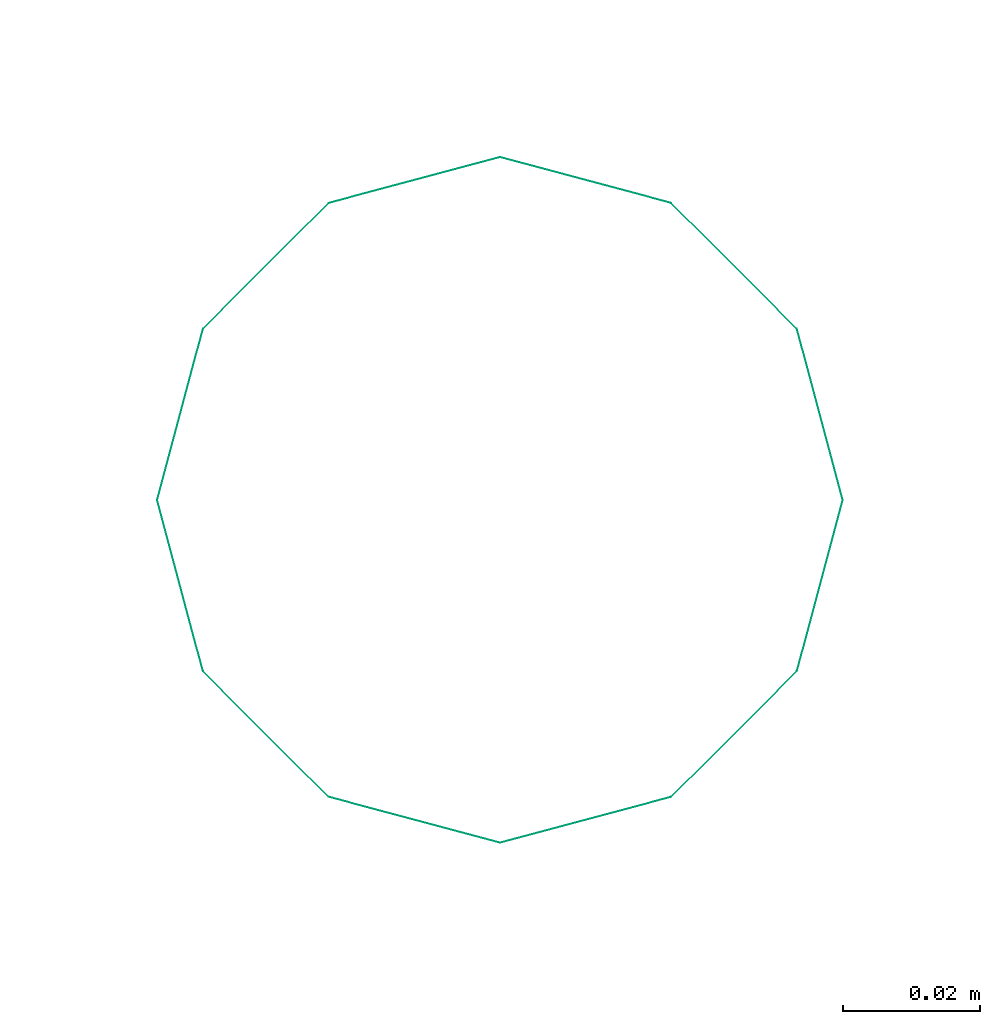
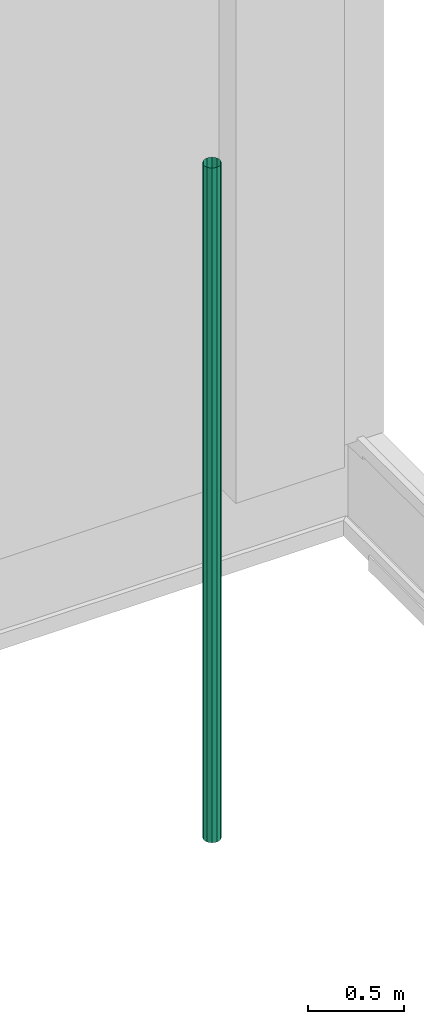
# One storey, part 87 of 94: 1 distribution flow element.
"""IFC2X3 building model written with IfcOpenShell, lengths in millimetres."""

import ifcopenshell
import ifcopenshell.guid

model = None  # the IFC model being written
_history = None  # IfcOwnerHistory: only IFC2X3 demands one
_inside = {}  # id of a spatial element -> (the spatial element, [elements in it])
_under = {}  # id of a project, library or spatial element -> (it, [spatial elements below it])
_declared = {}  # id of a project -> (the project, [libraries it declares])
_typed = {}  # id of a type object -> (the type object, [elements of that type])
_made_of = {}  # id of a material, layer set ... -> (it, [elements and type objects made of it])


def new_model(schema):
    """Start an empty IFC model of exactly this schema.

    Asked for "IFC4X3", IfcOpenShell would pick the latest addendum, in which some entities
    have other attributes; the version numbers below select the first issue.
    IFC2X3 requires an IfcOwnerHistory on every rooted entity: one is made here for all.
    """
    global model, _history
    if schema == "IFC4X3":
        model = ifcopenshell.file(schema_version=(4, 3, 0, 0))
    else:
        model = ifcopenshell.file(schema=schema)
    _inside.clear()
    _under.clear()
    _declared.clear()
    _typed.clear()
    _made_of.clear()
    _history = None
    if model.schema == "IFC2X3":
        org = make("IfcOrganization", Name="unknown")
        user = make(
            "IfcPersonAndOrganization",
            ThePerson=make("IfcPerson", FamilyName="unknown"),
            TheOrganization=org,
        )
        app = make(
            "IfcApplication",
            ApplicationDeveloper=org,
            Version="unknown",
            ApplicationFullName="unknown",
            ApplicationIdentifier="unknown",
        )
        _history = make(
            "IfcOwnerHistory",
            OwningUser=user,
            OwningApplication=app,
            ChangeAction="ADDED",
            CreationDate=0,
        )
    return model


def make(cls, **values):
    """One entity of the class cls with the attributes given. An attribute that is None is left unset."""
    return model.create_entity(
        cls, **{name: value for name, value in values.items() if value is not None}
    )


def entity(cls, *values):
    """Any entity or typed value of the class cls, its attributes in the order of the schema. None: left unset."""
    e = model.create_entity(cls)
    for i, value in enumerate(values):
        if value is not None:
            e[i] = value
    return e


def rooted(cls, **values):
    """An entity with a GlobalId (a new one), such as an element, a storey or a relation."""
    return make(cls, GlobalId=ifcopenshell.guid.new(), OwnerHistory=_history, **values)


def si_unit(unit_type, name, prefix=None):
    """IfcSIUnit, for example si_unit("LENGTHUNIT", "METRE", prefix="MILLI")."""
    return make("IfcSIUnit", UnitType=unit_type, Prefix=prefix, Name=name)


def converted_unit(unit_type, name, factor, base, dimensions=None, offset=None):
    """IfcConversionBasedUnit, such as the inch: factor (a typed value) times the base unit."""
    return make(
        "IfcConversionBasedUnit"
        if offset is None
        else "IfcConversionBasedUnitWithOffset",
        ConversionOffset=offset,
        Dimensions=None
        if dimensions is None
        else entity("IfcDimensionalExponents", *dimensions),
        UnitType=unit_type,
        Name=name,
        ConversionFactor=make(
            "IfcMeasureWithUnit", ValueComponent=factor, UnitComponent=base
        ),
    )


def derived_unit(unit_type, elements):
    """IfcDerivedUnit: a product of units, each with its exponent."""
    return make(
        "IfcDerivedUnit",
        Elements=[
            make("IfcDerivedUnitElement", Unit=unit, Exponent=power)
            for unit, power in elements
        ],
        UnitType=unit_type,
    )


def money_unit(currency):
    """IfcMonetaryUnit."""
    return make("IfcMonetaryUnit", Currency=currency)


def assignment(units):
    """IfcUnitAssignment: the units of a project."""
    return None if units is None else make("IfcUnitAssignment", Units=units)


def point(xyz):
    """IfcCartesianPoint."""
    return None if xyz is None else make("IfcCartesianPoint", Coordinates=xyz)


def direction(xyz):
    """IfcDirection."""
    return None if xyz is None else make("IfcDirection", DirectionRatios=xyz)


def frame(location, z_axis=None, x_axis=None):
    """IfcAxis2Placement3D, a coordinate frame: its origin and axes. An axis left out is left unset."""
    return make(
        "IfcAxis2Placement3D",
        Location=point(location),
        Axis=direction(z_axis),
        RefDirection=direction(x_axis),
    )


def origin_with_axes():
    """The frame at (0, 0, 0) with the z axis (0, 0, 1) and the x axis (1, 0, 0) written out."""
    return frame((0.0, 0.0, 0.0), z_axis=(0.0, 0.0, 1.0), x_axis=(1.0, 0.0, 0.0))


def place(relative_to, where):
    """IfcLocalPlacement: puts the frame where relative to a parent placement (None: the world)."""
    return make(
        "IfcLocalPlacement", PlacementRelTo=relative_to, RelativePlacement=where
    )


def context(
    kind, dimensions, precision=None, world=None, true_north=None, identifier=None
):
    """IfcGeometricRepresentationContext, for example the 3D "Model" context."""
    return make(
        "IfcGeometricRepresentationContext",
        ContextIdentifier=identifier,
        ContextType=kind,
        CoordinateSpaceDimension=dimensions,
        Precision=precision,
        WorldCoordinateSystem=world,
        TrueNorth=true_north,
    )


def subcontext(parent, identifier, kind, view, scale=None):
    """IfcGeometricRepresentationSubContext, for example "Body" below "Model"."""
    return make(
        "IfcGeometricRepresentationSubContext",
        ContextIdentifier=identifier,
        ContextType=kind,
        ParentContext=parent,
        TargetScale=scale,
        TargetView=view,
    )


def project(units=None, contexts=None):
    """IfcProject with its units and contexts."""
    return rooted(
        "IfcProject",
        Name="project",
        RepresentationContexts=contexts,
        UnitsInContext=assignment(units),
    )


def spatial(cls, under=None, at=None, **own):
    """A site, building, storey or space (cls), placed at a placement, below another one or the project."""
    s = rooted(cls, ObjectPlacement=at, **own)
    if under is not None:
        _under.setdefault(under.id(), (under, []))[1].append(s)
    return s


def faces_of(points, faces, orient=None, outer=None):
    """IfcFace entities. A face is a list of loops; a loop is a list of indices into points, from 0.

    orient and outer hold one flag for each loop. By default every Orientation is true, the
    first loop of a face is its IfcFaceOuterBound and the others are IfcFaceBound.
    """
    made = []
    for i, loops in enumerate(faces):
        bounds = []
        for j, loop in enumerate(loops):
            is_outer = j == 0 if outer is None else outer[i][j]
            bounds.append(
                make(
                    "IfcFaceOuterBound" if is_outer else "IfcFaceBound",
                    Bound=make("IfcPolyLoop", Polygon=[points[k] for k in loop]),
                    Orientation=True if orient is None else orient[i][j],
                )
            )
        made.append(make("IfcFace", Bounds=bounds))
    return made


def open_shell(faces, orient=None, outer=None):
    """The faces of one IfcOpenShell. surface_model builds it on its shared points."""
    return ("IfcOpenShell", faces, orient, outer)


def surface_model(cls, points, shells):
    """IfcFaceBasedSurfaceModel or IfcShellBasedSurfaceModel (cls): surfaces that need not close."""
    shared = [point(p) for p in points]
    made = [make(c, CfsFaces=faces_of(shared, fs, o, b)) for c, fs, o, b in shells]
    if cls == "IfcFaceBasedSurfaceModel":
        return make(cls, FbsmFaces=made)
    return make(cls, SbsmBoundary=made)


def shape(context_of_items, identifier, shape_type, items):
    """IfcShapeRepresentation: the items that make up one representation, for example the "Body"."""
    return make(
        "IfcShapeRepresentation",
        ContextOfItems=context_of_items,
        RepresentationIdentifier=identifier,
        RepresentationType=shape_type,
        Items=items,
    )


def source(mapping_origin, context_of_items, identifier, shape_type, items):
    """IfcRepresentationMap: a shape defined once, which mapped items show again and again."""
    return make(
        "IfcRepresentationMap",
        MappingOrigin=mapping_origin,
        MappedRepresentation=shape(context_of_items, identifier, shape_type, items),
    )


def transform(
    local_origin,
    x_axis=None,
    y_axis=None,
    z_axis=None,
    scale=None,
    scale2=None,
    scale3=None,
    uniform=True,
):
    """IfcCartesianTransformationOperator3D, or its non-uniform kind. x_axis, y_axis, z_axis: its Axis1, 2, 3."""
    if uniform:
        return make(
            "IfcCartesianTransformationOperator3D",
            Axis1=direction(x_axis),
            Axis2=direction(y_axis),
            LocalOrigin=point(local_origin),
            Scale=scale,
            Axis3=direction(z_axis),
        )
    return make(
        "IfcCartesianTransformationOperator3DnonUniform",
        Axis1=direction(x_axis),
        Axis2=direction(y_axis),
        LocalOrigin=point(local_origin),
        Scale=scale,
        Axis3=direction(z_axis),
        Scale2=scale2,
        Scale3=scale3,
    )


def mapped(mapping_source, mapping_target):
    """IfcMappedItem: shows the shape of a source again, moved by a transform."""
    return make(
        "IfcMappedItem", MappingSource=mapping_source, MappingTarget=mapping_target
    )


def made_of(thing, what):
    """Note that an element or type object is made of a material, layer set ...; save() writes the relation."""
    if what is not None:
        _made_of.setdefault(what.id(), (what, []))[1].append(thing)
    return thing


def type_object(cls, material=None, **own):
    """A type object (cls), such as IfcWallType, which elements share."""
    return made_of(rooted(cls, **own), material)


def type_shapes(of_type, sources):
    """Give a type object the sources (RepresentationMaps) that its elements show as mapped items."""
    of_type.RepresentationMaps = sources


def element(
    cls,
    number,
    at=None,
    inside=None,
    cuts=None,
    type_object=None,
    material=None,
    context=None,
    identifier="Body",
    shape_type=None,
    held_by="IfcProductDefinitionShape",
    body=None,
    shapes=None,
    **own,
):
    """One element of the class cls, such as IfcWall. Its Tag is "e" and its number.

    at: its placement. inside: the storey or other place that contains it. cuts: it is an
    opening in that element (IfcRelVoidsElement). A single representation is given by context,
    identifier, shape_type and body (its items); several are given by shapes. held_by: the class
    of the entity that holds the representations. save() writes the other relations.
    """
    e = rooted(cls, Tag="e%d" % number, ObjectPlacement=at, **own)
    if body is not None:
        shapes = [shape(context, identifier, shape_type, body)]
    if shapes is not None:
        e.Representation = make(held_by, Representations=shapes)
    if inside is not None:
        _inside.setdefault(inside.id(), (inside, []))[1].append(e)
    if cuts is not None:
        rooted(
            "IfcRelVoidsElement", RelatingBuildingElement=cuts, RelatedOpeningElement=e
        )
    if type_object is not None:
        _typed.setdefault(type_object.id(), (type_object, []))[1].append(e)
    return made_of(e, material)


def aggregate(whole, parts):
    """IfcRelAggregates: a whole, such as a stair, and the parts it consists of."""
    return rooted("IfcRelAggregates", RelatingObject=whole, RelatedObjects=parts)


def save(model, path):
    """Write the relations noted so far, then the file.

    IfcRelAggregates (storeys below a building ...), IfcRelContainedInSpatialStructure (elements
    in a storey), IfcRelDefinesByType, IfcRelAssociatesMaterial and IfcRelDeclares: one each for
    every whole, place, type object, material and project.
    """
    for whole, parts in _under.values():
        aggregate(whole, parts)
    for where, things in _inside.values():
        rooted(
            "IfcRelContainedInSpatialStructure",
            RelatedElements=things,
            RelatingStructure=where,
        )
    for kind, things in _typed.values():
        rooted("IfcRelDefinesByType", RelatedObjects=things, RelatingType=kind)
    for what, things in _made_of.values():
        rooted("IfcRelAssociatesMaterial", RelatedObjects=things, RelatingMaterial=what)
    for by, libraries in _declared.values():
        rooted("IfcRelDeclares", RelatingContext=by, RelatedDefinitions=libraries)
    model.write(path)


model = new_model("IFC2X3")

# Units and contexts
model_context = context("Model", 3, precision=0.01, world=origin_with_axes(), true_north=direction((0.0, 1.0)))
body_context = subcontext(model_context, "Body", "Model", "MODEL_VIEW")
ifc_project = project(units=[si_unit("LENGTHUNIT", "METRE", prefix="MILLI"), si_unit("AREAUNIT", "SQUARE_METRE"), si_unit("VOLUMEUNIT", "CUBIC_METRE"), converted_unit("PLANEANGLEUNIT", "DEGREE", entity("IfcPlaneAngleMeasure", 0.0174532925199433), si_unit("PLANEANGLEUNIT", "RADIAN"), dimensions=[0, 0, 0, 0, 0, 0, 0]), money_unit("EUR"), converted_unit("TIMEUNIT", "Year", entity("IfcTimeMeasure", 31557600.0), si_unit("TIMEUNIT", "SECOND"), dimensions=[0, 0, 1, 0, 0, 0, 0]), si_unit("MASSUNIT", "GRAM", prefix="KILO"), si_unit("THERMODYNAMICTEMPERATUREUNIT", "DEGREE_CELSIUS"), si_unit("LUMINOUSINTENSITYUNIT", "LUMEN"), si_unit("ENERGYUNIT", "JOULE", prefix="MEGA"), derived_unit("THERMALCONDUCTANCEUNIT", [(si_unit("POWERUNIT", "WATT"), 1), (si_unit("LENGTHUNIT", "METRE"), -1), (si_unit("THERMODYNAMICTEMPERATUREUNIT", "KELVIN"), -1)]), derived_unit("SPECIFICHEATCAPACITYUNIT", [(si_unit("ENERGYUNIT", "JOULE"), 1), (si_unit("MASSUNIT", "GRAM", prefix="KILO"), -1), (si_unit("THERMODYNAMICTEMPERATUREUNIT", "KELVIN"), -1)]), derived_unit("MASSDENSITYUNIT", [(si_unit("MASSUNIT", "GRAM", prefix="KILO"), 1), (si_unit("VOLUMEUNIT", "CUBIC_METRE"), -1)])], contexts=[model_context])

# Site, building, storey
site_placement = place(None, origin_with_axes())
site = spatial("IfcSite", under=ifc_project, at=site_placement, Name="<site naam>", CompositionType="ELEMENT")
building_placement = place(site_placement, origin_with_axes())
building = spatial("IfcBuilding", under=site, at=building_placement, Name="<Naam gebouw>", CompositionType="ELEMENT")
storey_placement = place(building_placement, frame((0.0, 0.0, 4250.0), z_axis=(0.0, 0.0, 1.0), x_axis=(1.0, 0.0, 0.0)))
storey = spatial("IfcBuildingStorey", under=building, at=storey_placement, Name="01 1e verdieping", CompositionType="ELEMENT", Elevation=4250.0)

# Distribution flow element
valve_type = type_object("IfcValveType", Name="Regenpijp 27", PredefinedType="AIRRELEASE")
shared_shape = source(origin_with_axes(), body_context, "Body", "SurfaceModel", [
    surface_model("IfcShellBasedSurfaceModel", [(-50.0, -30.0, 4272.999999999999), (-50.0, -30.0, 0.0), (-43.30127018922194, -54.99999999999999, 0.0), (-43.30127018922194, -54.99999999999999, 4272.999999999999), (-43.30127018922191, -4.999999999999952, 4272.999999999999), (-43.30127018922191, -4.999999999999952, 0.0), (-25.00000000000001, -73.30127018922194, 0.0), (-25.00000000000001, -73.30127018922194, 4272.999999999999), (-24.99999999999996, 13.30127018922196, 4272.999999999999), (-24.99999999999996, 13.30127018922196, 0.0), (0.0, -80.0, 0.0), (0.0, -80.0, 4272.999999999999), (0.0, 20.0, 4272.999999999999), (0.0, 20.0, 0.0), (24.99999999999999, -73.30127018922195, 0.0), (24.99999999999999, -73.30127018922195, 4272.999999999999), (25.00000000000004, 13.30127018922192, 4272.999999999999), (25.00000000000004, 13.30127018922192, 0.0), (43.30127018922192, -55.00000000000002, 0.0), (43.30127018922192, -55.00000000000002, 4272.999999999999), (43.30127018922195, -5.000000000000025, 4272.999999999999), (43.30127018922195, -5.000000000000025, 0.0), (50.0, -30.00000000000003, 0.0), (50.0, -30.00000000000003, 4272.999999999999)], [open_shell([[[0, 1, 2, 3]], [[4, 5, 1, 0]], [[3, 2, 6, 7]], [[8, 9, 5, 4]], [[7, 6, 10, 11]], [[12, 13, 9, 8]], [[11, 10, 14, 15]], [[16, 17, 13, 12]], [[15, 14, 18, 19]], [[20, 21, 17, 16]], [[19, 18, 22, 23]], [[23, 22, 21, 20]]])]),
])
type_shapes(valve_type, [shared_shape])
distribution_flow_element_placement = place(storey_placement, frame((69225.000113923, 19929.9683199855, 0.0), z_axis=(0.0, 0.0, 1.0), x_axis=(1.0, 0.0, 0.0)))
element("IfcDistributionFlowElement", 1, at=distribution_flow_element_placement, inside=storey, type_object=valve_type, Name="52_Wasmachine_Lege", context=body_context, shape_type="MappedRepresentation", body=[
    mapped(shared_shape, transform((0.0, 0.0, 0.0))),
])

save(model, "model.ifc")
